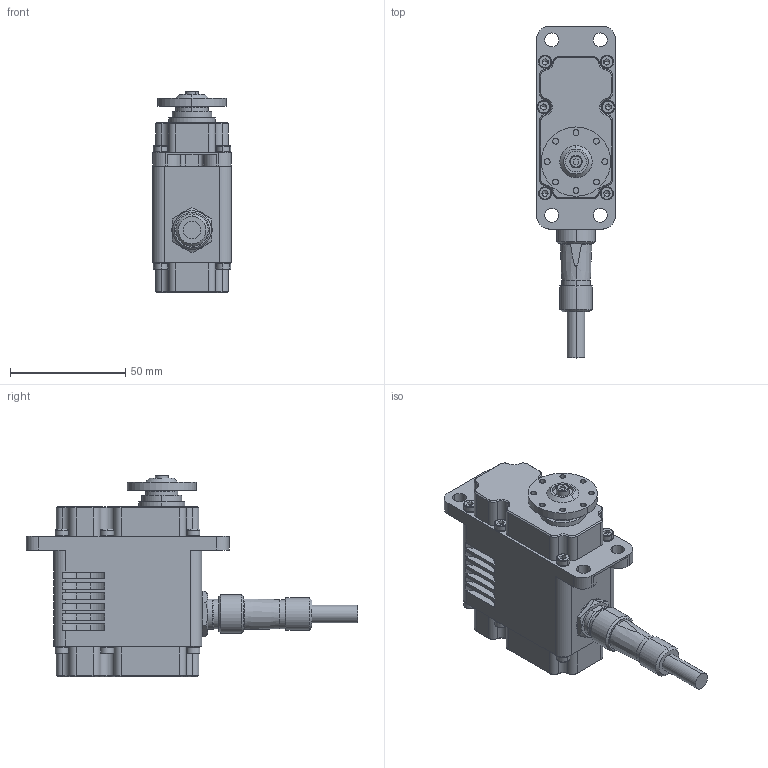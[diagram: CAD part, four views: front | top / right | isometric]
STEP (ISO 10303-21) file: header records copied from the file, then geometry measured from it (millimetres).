
FILE_DESCRIPTION (( 'STEP AP203' ), '1' );
FILE_NAME ('AJ9DA43_44_53_54(3D).STEP', '2022-12-06T07:13:39', ( '' ), ( '' ), 'SwSTEP 2.0', 'SolidWorks 2022', '' );
FILE_SCHEMA (( 'CONFIG_CONTROL_DESIGN' ));
Length unit declared in the file: millimetre
Products named in the file (5): AJ9DA43_44_53_54(3D); SCREW M3x8; cable; AJ9DA43_44_53_54; HORN
Assembly tree (4 placements, depth 2):
  AJ9DA43_44_53_54(3D)
    AJ9DA43_44_53_54
    HORN
    SCREW M3x8
    cable
Bounding box: 34 x 143.8 x 87.35 mm (x, y, z)
Volume: 162391.6 mm3; surface area: 29655.3 mm2
Topology: 4 solids, 4 shells, 673 faces, 1711 edges, 1071 vertices
Faces by surface type: plane 338, cylinder 209, cone 98, torus 28
Entity records: 25116 total; most frequent: CARTESIAN_POINT 8340, DIRECTION 3443, ORIENTED_EDGE 3366, EDGE_CURVE 1683, AXIS2_PLACEMENT_3D 1276, VERTEX_POINT 1071, LINE 891, VECTOR 891
